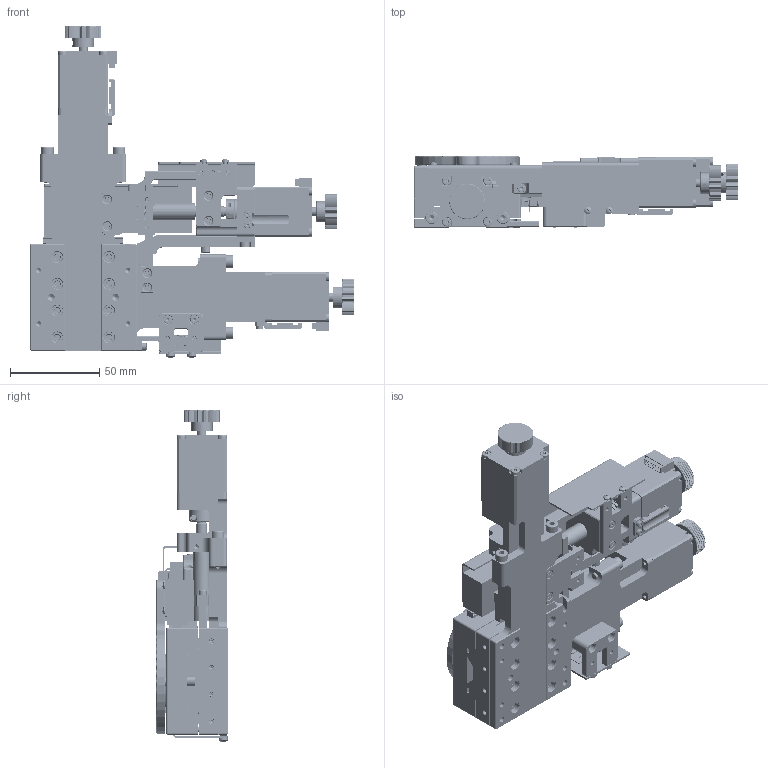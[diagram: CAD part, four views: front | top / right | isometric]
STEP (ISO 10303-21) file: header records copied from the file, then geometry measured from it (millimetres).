
FILE_DESCRIPTION (( 'STEP AP214' ), '1' );
FILE_NAME ('TXYRA60-L1-M28.STEP', '2025-01-03T08:00:05', ( '' ), ( '' ), 'SwSTEP 2.0', 'SolidWorks 2020', '' );
FILE_SCHEMA (( 'AUTOMOTIVE_DESIGN' ));
Length unit declared in the file: millimetre
Products named in the file (1): TXYRA60-L1-M28
Bounding box: 182 x 40 x 186.07 mm (x, y, z)
Volume: 332487.7 mm3; surface area: 140276.7 mm2
Topology: 1 solids, 87 shells, 6107 faces, 15849 edges, 10036 vertices
Faces by surface type: plane 3139, cylinder 1947, cone 773, torus 177, bspline 44, sphere 27
Entity records: 259947 total; most frequent: CARTESIAN_POINT 43563, ORIENTED_EDGE 31316, DIRECTION 31194, EDGE_CURVE 15658, AXIS2_PLACEMENT_3D 11292, VERTEX_POINT 10036, LINE 8610, VECTOR 8610
